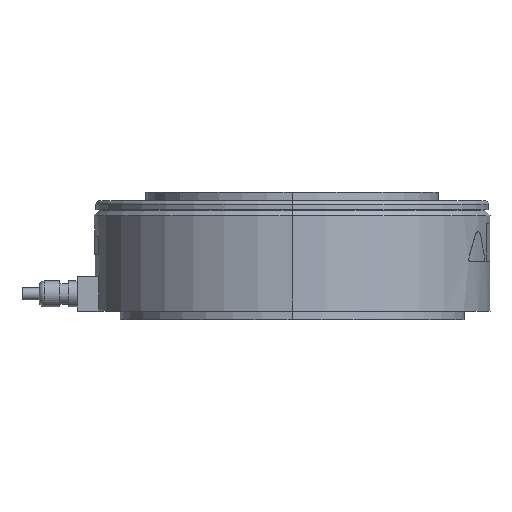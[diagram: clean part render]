
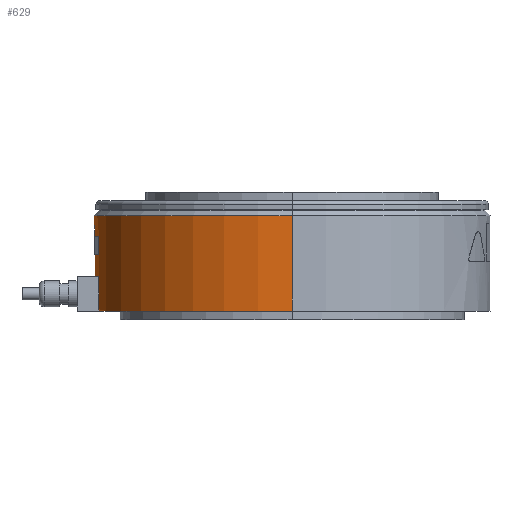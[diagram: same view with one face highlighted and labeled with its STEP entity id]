
A CAD part, left-side view. The second image highlights one B-rep face of the part: STEP entity #629.
In plain terms, the highlighted cylindrical face has radius 115 mm (diameter 230 mm), a partial arc.
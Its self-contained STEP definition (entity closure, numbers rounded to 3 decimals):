
#168 = VERTEX_POINT ( 'NONE', #2502 ) ;
#169 = VERTEX_POINT ( 'NONE', #2503 ) ;
#629 = ADVANCED_FACE ( 'NONE', ( #3171, #3179, #3181 ), #3175, .T. ) ;
#1021 = EDGE_LOOP ( 'NONE', ( #1168, #1169, #1170, #1171 ) ) ;
#1029 = EDGE_LOOP ( 'NONE', ( #1172, #1173, #1174, #1175 ) ) ;
#1086 = EDGE_LOOP ( 'NONE', ( #1176, #1177, #1178, #1179 ) ) ;
#1168 = ORIENTED_EDGE ( 'NONE', *, *, #1431, .T. ) ;
#1169 = ORIENTED_EDGE ( 'NONE', *, *, #1430, .T. ) ;
#1170 = ORIENTED_EDGE ( 'NONE', *, *, #1426, .F. ) ;
#1171 = ORIENTED_EDGE ( 'NONE', *, *, #1432, .T. ) ;
#1172 = ORIENTED_EDGE ( 'NONE', *, *, #1422, .F. ) ;
#1173 = ORIENTED_EDGE ( 'NONE', *, *, #1418, .F. ) ;
#1174 = ORIENTED_EDGE ( 'NONE', *, *, #1434, .F. ) ;
#1175 = ORIENTED_EDGE ( 'NONE', *, *, #1433, .F. ) ;
#1176 = ORIENTED_EDGE ( 'NONE', *, *, #1295, .T. ) ;
#1177 = ORIENTED_EDGE ( 'NONE', *, *, #1436, .T. ) ;
#1178 = ORIENTED_EDGE ( 'NONE', *, *, #1438, .F. ) ;
#1179 = ORIENTED_EDGE ( 'NONE', *, *, #1435, .F. ) ;
#1295 = EDGE_CURVE ( 'NONE', #169, #168, #5153, .T. ) ;
#1315 = VERTEX_POINT ( 'NONE', #5233 ) ;
#1316 = VERTEX_POINT ( 'NONE', #5224 ) ;
#1317 = VERTEX_POINT ( 'NONE', #5234 ) ;
#1318 = VERTEX_POINT ( 'NONE', #5235 ) ;
#1319 = VERTEX_POINT ( 'NONE', #5236 ) ;
#1320 = VERTEX_POINT ( 'NONE', #5237 ) ;
#1321 = VERTEX_POINT ( 'NONE', #5238 ) ;
#1322 = VERTEX_POINT ( 'NONE', #5239 ) ;
#1323 = VERTEX_POINT ( 'NONE', #5240 ) ;
#1324 = VERTEX_POINT ( 'NONE', #5241 ) ;
#1418 = EDGE_CURVE ( 'NONE', #1321, #1319, #5187, .T. ) ;
#1422 = EDGE_CURVE ( 'NONE', #1319, #1320, #5179, .T. ) ;
#1426 = EDGE_CURVE ( 'NONE', #1318, #1317, #5364, .T. ) ;
#1430 = EDGE_CURVE ( 'NONE', #1316, #1317, #5196, .T. ) ;
#1431 = EDGE_CURVE ( 'NONE', #1315, #1316, #5372, .T. ) ;
#1432 = EDGE_CURVE ( 'NONE', #1318, #1315, #5369, .T. ) ;
#1433 = EDGE_CURVE ( 'NONE', #1320, #1322, #5375, .T. ) ;
#1434 = EDGE_CURVE ( 'NONE', #1322, #1321, #5374, .T. ) ;
#1435 = EDGE_CURVE ( 'NONE', #169, #1324, #5370, .T. ) ;
#1436 = EDGE_CURVE ( 'NONE', #168, #1323, #5373, .T. ) ;
#1438 = EDGE_CURVE ( 'NONE', #1324, #1323, #5379, .T. ) ;
#2502 = CARTESIAN_POINT ( 'NONE',  ( 115., 0., 60.5 ) ) ;
#2503 = CARTESIAN_POINT ( 'NONE',  ( -115., 0., 60.5 ) ) ;
#3171 = FACE_BOUND ( 'NONE', #1021, .T. ) ;
#3175 = CYLINDRICAL_SURFACE ( 'NONE', #3335, 115. ) ;
#3179 = FACE_BOUND ( 'NONE', #1029, .T. ) ;
#3181 = FACE_OUTER_BOUND ( 'NONE', #1086, .T. ) ;
#3335 = AXIS2_PLACEMENT_3D ( 'NONE', #3587, #3590, #3589 ) ;
#3587 = CARTESIAN_POINT ( 'NONE',  ( 0., 0., 0. ) ) ;
#3589 = DIRECTION ( 'NONE',  ( -1., 0., 0. ) ) ;
#3590 = DIRECTION ( 'NONE',  ( 0., 0., -1. ) ) ;
#4234 = AXIS2_PLACEMENT_3D ( 'NONE', #5063, #5064, #5065 ) ;
#4242 = AXIS2_PLACEMENT_3D ( 'NONE', #5325, #5326, #5327 ) ;
#4247 = AXIS2_PLACEMENT_3D ( 'NONE', #5306, #5307, #5308 ) ;
#4250 = AXIS2_PLACEMENT_3D ( 'NONE', #5336, #5338, #5339 ) ;
#4251 = AXIS2_PLACEMENT_3D ( 'NONE', #5334, #5342, #5343 ) ;
#4252 = AXIS2_PLACEMENT_3D ( 'NONE', #5347, #5354, #5355 ) ;
#5063 = CARTESIAN_POINT ( 'NONE',  ( 0., 0., 60.5 ) ) ;
#5064 = DIRECTION ( 'NONE',  ( 0., 0., -1. ) ) ;
#5065 = DIRECTION ( 'NONE',  ( -1., 0., 0. ) ) ;
#5153 = CIRCLE ( 'NONE', #4234, 115. ) ;
#5179 = LINE ( 'NONE', #5313, #5191 ) ;
#5187 = CIRCLE ( 'NONE', #4247, 115. ) ;
#5191 = VECTOR ( 'NONE', #5316, 1000. ) ;
#5196 = LINE ( 'NONE', #5332, #5368 ) ;
#5224 = CARTESIAN_POINT ( 'NONE',  ( -25., 112.25, 25. ) ) ;
#5233 = CARTESIAN_POINT ( 'NONE',  ( 25., 112.25, 25. ) ) ;
#5234 = CARTESIAN_POINT ( 'NONE',  ( -25., 112.25, 6. ) ) ;
#5235 = CARTESIAN_POINT ( 'NONE',  ( 25., 112.25, 6. ) ) ;
#5236 = CARTESIAN_POINT ( 'NONE',  ( -25., 112.25, 38. ) ) ;
#5237 = CARTESIAN_POINT ( 'NONE',  ( -25., 112.25, 48.5 ) ) ;
#5238 = CARTESIAN_POINT ( 'NONE',  ( 25., 112.25, 38. ) ) ;
#5239 = CARTESIAN_POINT ( 'NONE',  ( 25., 112.25, 48.5 ) ) ;
#5240 = CARTESIAN_POINT ( 'NONE',  ( 115., 0., 5. ) ) ;
#5241 = CARTESIAN_POINT ( 'NONE',  ( -115., 0., 5. ) ) ;
#5306 = CARTESIAN_POINT ( 'NONE',  ( 0., 0., 38. ) ) ;
#5307 = DIRECTION ( 'NONE',  ( 0., 0., 1. ) ) ;
#5308 = DIRECTION ( 'NONE',  ( -1., 0., 0. ) ) ;
#5313 = CARTESIAN_POINT ( 'NONE',  ( -25., 112.25, 0. ) ) ;
#5316 = DIRECTION ( 'NONE',  ( 0., 0., 1. ) ) ;
#5325 = CARTESIAN_POINT ( 'NONE',  ( 0., 0., 6. ) ) ;
#5326 = DIRECTION ( 'NONE',  ( 0., 0., 1. ) ) ;
#5327 = DIRECTION ( 'NONE',  ( -1., 0., 0. ) ) ;
#5332 = CARTESIAN_POINT ( 'NONE',  ( -25., 112.25, 0. ) ) ;
#5334 = CARTESIAN_POINT ( 'NONE',  ( 0., 0., 48.5 ) ) ;
#5335 = DIRECTION ( 'NONE',  ( 0., 0., -1. ) ) ;
#5336 = CARTESIAN_POINT ( 'NONE',  ( 0., 0., 25. ) ) ;
#5337 = CARTESIAN_POINT ( 'NONE',  ( 25., 112.25, 0. ) ) ;
#5338 = DIRECTION ( 'NONE',  ( 0., 0., 1. ) ) ;
#5339 = DIRECTION ( 'NONE',  ( -1., 0., 0. ) ) ;
#5340 = CARTESIAN_POINT ( 'NONE',  ( 25., 112.25, 0. ) ) ;
#5341 = DIRECTION ( 'NONE',  ( 0., 0., 1. ) ) ;
#5342 = DIRECTION ( 'NONE',  ( 0., 0., -1. ) ) ;
#5343 = DIRECTION ( 'NONE',  ( 1., 0., 0. ) ) ;
#5344 = CARTESIAN_POINT ( 'NONE',  ( -115., 0., 0. ) ) ;
#5345 = DIRECTION ( 'NONE',  ( 0., 0., -1. ) ) ;
#5346 = CARTESIAN_POINT ( 'NONE',  ( 115., 0., 0. ) ) ;
#5347 = CARTESIAN_POINT ( 'NONE',  ( 0., 0., 5. ) ) ;
#5348 = DIRECTION ( 'NONE',  ( 0., 0., -1. ) ) ;
#5350 = DIRECTION ( 'NONE',  ( 0., 0., -1. ) ) ;
#5354 = DIRECTION ( 'NONE',  ( 0., 0., -1. ) ) ;
#5355 = DIRECTION ( 'NONE',  ( -1., 0., 0. ) ) ;
#5362 = VECTOR ( 'NONE', #5341, 1000. ) ;
#5364 = CIRCLE ( 'NONE', #4242, 115. ) ;
#5368 = VECTOR ( 'NONE', #5335, 1000. ) ;
#5369 = LINE ( 'NONE', #5340, #5362 ) ;
#5370 = LINE ( 'NONE', #5344, #5376 ) ;
#5371 = VECTOR ( 'NONE', #5345, 1000. ) ;
#5372 = CIRCLE ( 'NONE', #4250, 115. ) ;
#5373 = LINE ( 'NONE', #5346, #5377 ) ;
#5374 = LINE ( 'NONE', #5337, #5371 ) ;
#5375 = CIRCLE ( 'NONE', #4251, 115. ) ;
#5376 = VECTOR ( 'NONE', #5348, 1000. ) ;
#5377 = VECTOR ( 'NONE', #5350, 1000. ) ;
#5379 = CIRCLE ( 'NONE', #4252, 115. ) ;
